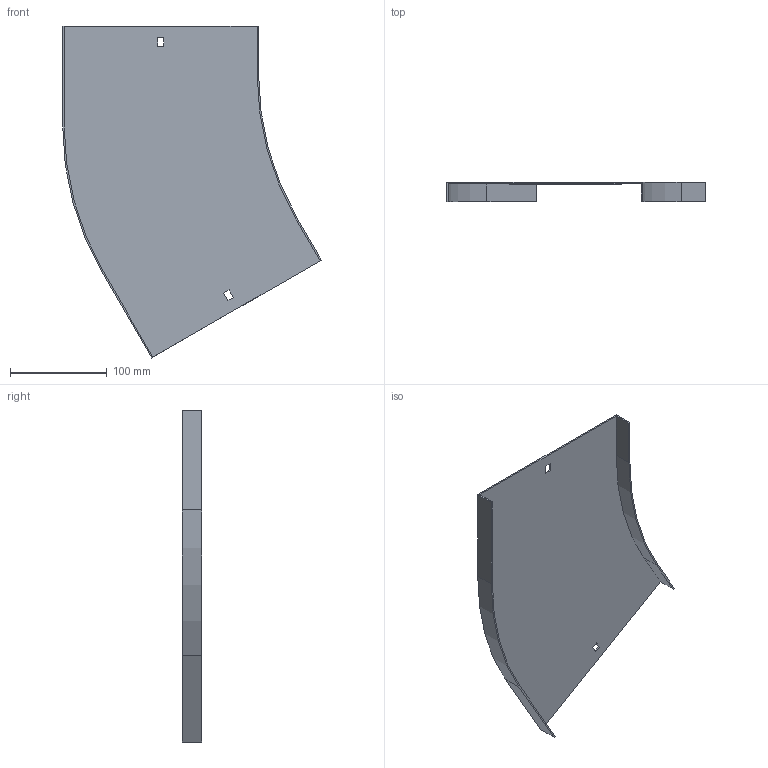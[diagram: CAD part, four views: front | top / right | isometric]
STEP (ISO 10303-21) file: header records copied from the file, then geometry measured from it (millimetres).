
FILE_DESCRIPTION (( 'STEP AP214' ), '1' );
FILE_NAME ('B2_12N3R200.step', '2025-02-21T10:49:21', ( '' ), ( '' ), 'SwSTEP 2.0', 'SolidWorks 2023', '' );
FILE_SCHEMA (( 'AUTOMOTIVE_DESIGN' ));
Length unit declared in the file: millimetre
Products named in the file (1): B2_12N3R200
Bounding box: 267.99 x 20 x 344.05 mm (x, y, z)
Volume: 112772.5 mm3; surface area: 152108.3 mm2
Topology: 1 solids, 1 shells, 26 faces, 72 edges, 48 vertices
Faces by surface type: plane 22, cylinder 4
Entity records: 855 total; most frequent: CARTESIAN_POINT 147, ORIENTED_EDGE 144, DIRECTION 134, EDGE_CURVE 72, LINE 64, VECTOR 64, VERTEX_POINT 48, AXIS2_PLACEMENT_3D 35
